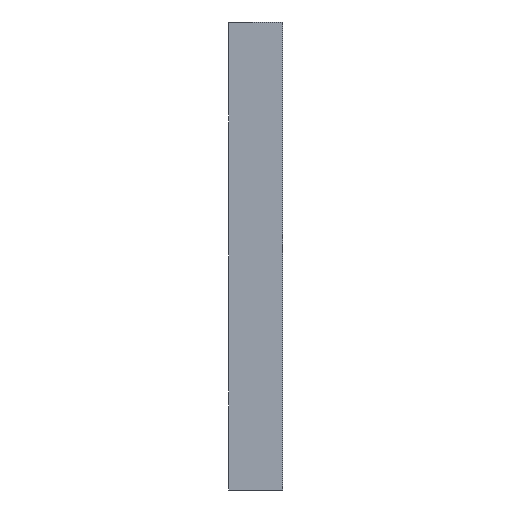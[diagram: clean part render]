
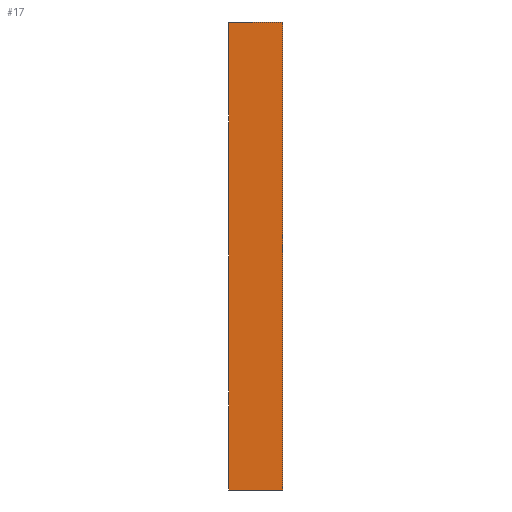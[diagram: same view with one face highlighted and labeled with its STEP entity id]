
A CAD part, left-side view. The second image highlights one B-rep face of the part: STEP entity #17.
In plain terms, the highlighted planar face has unit normal (-1, 0, 0).
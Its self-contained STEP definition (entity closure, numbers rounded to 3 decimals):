
#17 = ADVANCED_FACE('',(#18),#32,.F.);
#18 = FACE_BOUND('',#19,.F.);
#19 = EDGE_LOOP('',(#20,#55,#83,#111));
#20 = ORIENTED_EDGE('',*,*,#21,.F.);
#21 = EDGE_CURVE('',#22,#24,#26,.T.);
#22 = VERTEX_POINT('',#23);
#23 = CARTESIAN_POINT('',(-18.,24.,81.));
#24 = VERTEX_POINT('',#25);
#25 = CARTESIAN_POINT('',(-18.,24.,107.));
#26 = SURFACE_CURVE('',#27,(#31,#43),.PCURVE_S1.);
#27 = LINE('',#28,#29);
#28 = CARTESIAN_POINT('',(-18.,24.,81.));
#29 = VECTOR('',#30,1.);
#30 = DIRECTION('',(0.,0.,1.));
#31 = PCURVE('',#32,#37);
#32 = PLANE('',#33);
#33 = AXIS2_PLACEMENT_3D('',#34,#35,#36);
#34 = CARTESIAN_POINT('',(-18.,24.,81.));
#35 = DIRECTION('',(1.,0.,0.));
#36 = DIRECTION('',(0.,0.,1.));
#37 = DEFINITIONAL_REPRESENTATION('',(#38),#42);
#38 = LINE('',#39,#40);
#39 = CARTESIAN_POINT('',(0.,0.));
#40 = VECTOR('',#41,1.);
#41 = DIRECTION('',(1.,0.));
#42 = ( GEOMETRIC_REPRESENTATION_CONTEXT(2) 
PARAMETRIC_REPRESENTATION_CONTEXT() REPRESENTATION_CONTEXT('2D SPACE',''
  ) );
#43 = PCURVE('',#44,#49);
#44 = PLANE('',#45);
#45 = AXIS2_PLACEMENT_3D('',#46,#47,#48);
#46 = CARTESIAN_POINT('',(-18.,24.,81.));
#47 = DIRECTION('',(0.,1.,0.));
#48 = DIRECTION('',(0.,0.,1.));
#49 = DEFINITIONAL_REPRESENTATION('',(#50),#54);
#50 = LINE('',#51,#52);
#51 = CARTESIAN_POINT('',(0.,0.));
#52 = VECTOR('',#53,1.);
#53 = DIRECTION('',(1.,0.));
#54 = ( GEOMETRIC_REPRESENTATION_CONTEXT(2) 
PARAMETRIC_REPRESENTATION_CONTEXT() REPRESENTATION_CONTEXT('2D SPACE',''
  ) );
#55 = ORIENTED_EDGE('',*,*,#56,.T.);
#56 = EDGE_CURVE('',#22,#57,#59,.T.);
#57 = VERTEX_POINT('',#58);
#58 = CARTESIAN_POINT('',(-18.,27.,81.));
#59 = SURFACE_CURVE('',#60,(#64,#71),.PCURVE_S1.);
#60 = LINE('',#61,#62);
#61 = CARTESIAN_POINT('',(-18.,24.,81.));
#62 = VECTOR('',#63,1.);
#63 = DIRECTION('',(0.,1.,0.));
#64 = PCURVE('',#32,#65);
#65 = DEFINITIONAL_REPRESENTATION('',(#66),#70);
#66 = LINE('',#67,#68);
#67 = CARTESIAN_POINT('',(0.,0.));
#68 = VECTOR('',#69,1.);
#69 = DIRECTION('',(0.,-1.));
#70 = ( GEOMETRIC_REPRESENTATION_CONTEXT(2) 
PARAMETRIC_REPRESENTATION_CONTEXT() REPRESENTATION_CONTEXT('2D SPACE',''
  ) );
#71 = PCURVE('',#72,#77);
#72 = PLANE('',#73);
#73 = AXIS2_PLACEMENT_3D('',#74,#75,#76);
#74 = CARTESIAN_POINT('',(-18.,24.,81.));
#75 = DIRECTION('',(0.,0.,1.));
#76 = DIRECTION('',(1.,0.,0.));
#77 = DEFINITIONAL_REPRESENTATION('',(#78),#82);
#78 = LINE('',#79,#80);
#79 = CARTESIAN_POINT('',(0.,0.));
#80 = VECTOR('',#81,1.);
#81 = DIRECTION('',(0.,1.));
#82 = ( GEOMETRIC_REPRESENTATION_CONTEXT(2) 
PARAMETRIC_REPRESENTATION_CONTEXT() REPRESENTATION_CONTEXT('2D SPACE',''
  ) );
#83 = ORIENTED_EDGE('',*,*,#84,.T.);
#84 = EDGE_CURVE('',#57,#85,#87,.T.);
#85 = VERTEX_POINT('',#86);
#86 = CARTESIAN_POINT('',(-18.,27.,107.));
#87 = SURFACE_CURVE('',#88,(#92,#99),.PCURVE_S1.);
#88 = LINE('',#89,#90);
#89 = CARTESIAN_POINT('',(-18.,27.,81.));
#90 = VECTOR('',#91,1.);
#91 = DIRECTION('',(0.,0.,1.));
#92 = PCURVE('',#32,#93);
#93 = DEFINITIONAL_REPRESENTATION('',(#94),#98);
#94 = LINE('',#95,#96);
#95 = CARTESIAN_POINT('',(0.,-3.));
#96 = VECTOR('',#97,1.);
#97 = DIRECTION('',(1.,0.));
#98 = ( GEOMETRIC_REPRESENTATION_CONTEXT(2) 
PARAMETRIC_REPRESENTATION_CONTEXT() REPRESENTATION_CONTEXT('2D SPACE',''
  ) );
#99 = PCURVE('',#100,#105);
#100 = PLANE('',#101);
#101 = AXIS2_PLACEMENT_3D('',#102,#103,#104);
#102 = CARTESIAN_POINT('',(-18.,27.,81.));
#103 = DIRECTION('',(0.,1.,0.));
#104 = DIRECTION('',(0.,0.,1.));
#105 = DEFINITIONAL_REPRESENTATION('',(#106),#110);
#106 = LINE('',#107,#108);
#107 = CARTESIAN_POINT('',(0.,0.));
#108 = VECTOR('',#109,1.);
#109 = DIRECTION('',(1.,0.));
#110 = ( GEOMETRIC_REPRESENTATION_CONTEXT(2) 
PARAMETRIC_REPRESENTATION_CONTEXT() REPRESENTATION_CONTEXT('2D SPACE',''
  ) );
#111 = ORIENTED_EDGE('',*,*,#112,.F.);
#112 = EDGE_CURVE('',#24,#85,#113,.T.);
#113 = SURFACE_CURVE('',#114,(#118,#125),.PCURVE_S1.);
#114 = LINE('',#115,#116);
#115 = CARTESIAN_POINT('',(-18.,24.,107.));
#116 = VECTOR('',#117,1.);
#117 = DIRECTION('',(0.,1.,0.));
#118 = PCURVE('',#32,#119);
#119 = DEFINITIONAL_REPRESENTATION('',(#120),#124);
#120 = LINE('',#121,#122);
#121 = CARTESIAN_POINT('',(26.,0.));
#122 = VECTOR('',#123,1.);
#123 = DIRECTION('',(0.,-1.));
#124 = ( GEOMETRIC_REPRESENTATION_CONTEXT(2) 
PARAMETRIC_REPRESENTATION_CONTEXT() REPRESENTATION_CONTEXT('2D SPACE',''
  ) );
#125 = PCURVE('',#126,#131);
#126 = PLANE('',#127);
#127 = AXIS2_PLACEMENT_3D('',#128,#129,#130);
#128 = CARTESIAN_POINT('',(-18.,24.,107.));
#129 = DIRECTION('',(0.,0.,1.));
#130 = DIRECTION('',(1.,0.,0.));
#131 = DEFINITIONAL_REPRESENTATION('',(#132),#136);
#132 = LINE('',#133,#134);
#133 = CARTESIAN_POINT('',(0.,0.));
#134 = VECTOR('',#135,1.);
#135 = DIRECTION('',(0.,1.));
#136 = ( GEOMETRIC_REPRESENTATION_CONTEXT(2) 
PARAMETRIC_REPRESENTATION_CONTEXT() REPRESENTATION_CONTEXT('2D SPACE',''
  ) );
